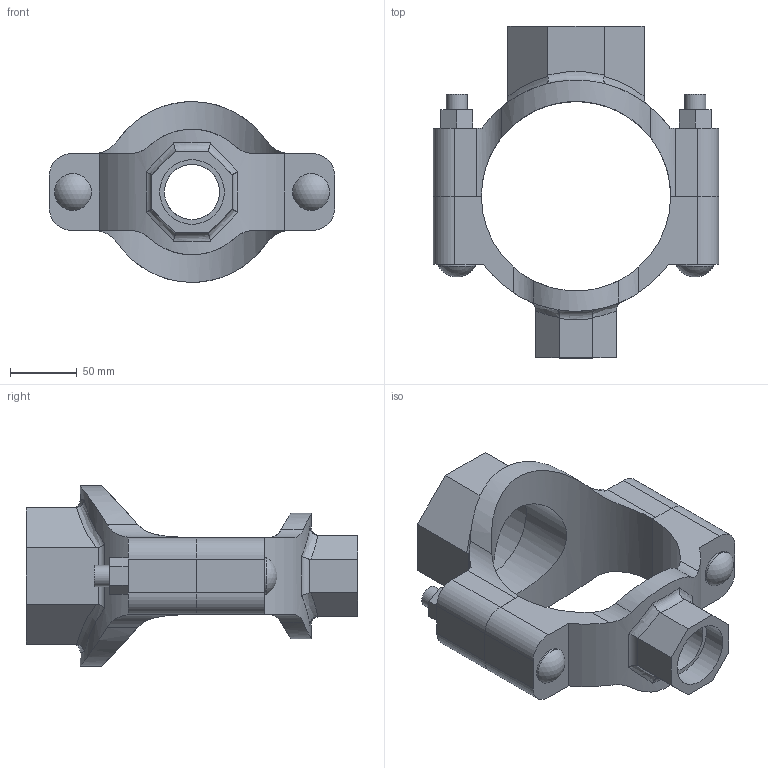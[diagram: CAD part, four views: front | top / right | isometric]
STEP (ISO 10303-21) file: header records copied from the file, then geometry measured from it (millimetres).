
FILE_DESCRIPTION(/* description */ ('VIC MECH-T BRANCH OUTLET CROSS STYLE 920N (THD)','CAx-IF Rec.Pracs.---Representation and Presentation of Product Manufacturing Information (PMI)---4.0---2014-10-13'),/* implementation_level */ '2;1');
FILE_NAME(/* name */ 'C:\Users\Vjadhav\AppData\Roaming\Autodesk\ApplicationPlugins\Back Up\Victaulic_IPS_Mechanical-Cross Outlet_Style 920N (FPT)\Victaulic_IPS_Mechanical-Cross Outlet_05.0x03.0x01.5 (125x80x40).stp',/* time_stamp */ '2020-08-06T18:59:22+05:00',/* author */ ('Vjadhav'),/* organization */ ('Victaulic'),/* preprocessor_version */ 'ST-DEVELOPER v17.2',/* originating_system */ 'Autodesk Inventor 2019',/* authorisation */ '');
FILE_SCHEMA (('AP242_MANAGED_MODEL_BASED_3D_ENGINEERING_MIM_LF { 1 0 10303 442 1 1 4 }'));
Length unit declared in the file: inch
Products named in the file (3): 920NT-05.0x03.0x01.5; 920T-05.0x03.0; 920T-05.0x01.5
Assembly tree (2 placements, depth 2):
  920NT-05.0x03.0x01.5
    920T-05.0x03.0
    920T-05.0x01.5
Bounding box: 212.85 x 247.65 x 134.77 mm (x, y, z)
Volume: 962620.9 mm3; surface area: 175840.6 mm2
Topology: 2 solids, 2 shells, 128 faces, 338 edges, 228 vertices
Faces by surface type: plane 68, cylinder 46, bspline 8, torus 4, sphere 2
Full cylindrical faces by diameter (mm): 15.875 x4, 27.496 x2, 41.275 x1, 48.26 x1, 77.787 x1, 88.9 x1
Entity records: 5046 total; most frequent: CARTESIAN_POINT 1641, ORIENTED_EDGE 676, DIRECTION 628, EDGE_CURVE 338, VERTEX_POINT 228, AXIS2_PLACEMENT_3D 223, LINE 182, VECTOR 182
